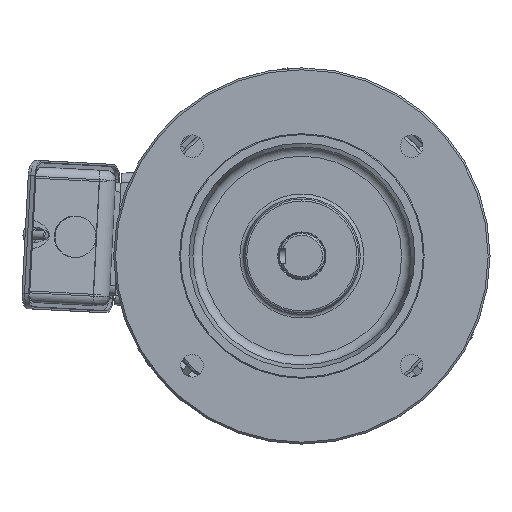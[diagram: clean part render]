
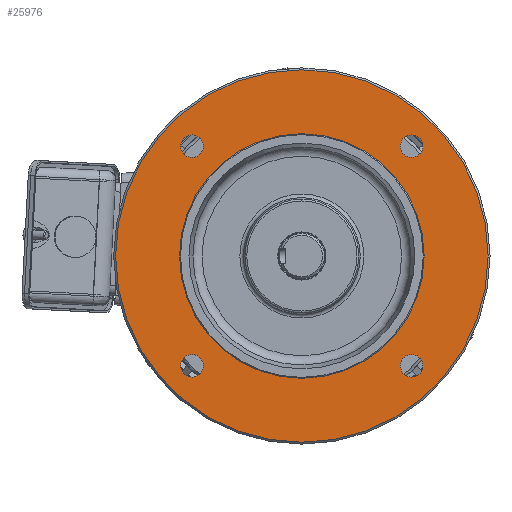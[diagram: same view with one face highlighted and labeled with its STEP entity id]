
A CAD part, front view. The second image highlights one B-rep face of the part: STEP entity #25976.
In plain terms, the highlighted planar face has unit normal (0, -1, 0).
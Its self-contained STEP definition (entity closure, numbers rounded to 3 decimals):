
#2106=CIRCLE('',#27814,65.);
#2107=CIRCLE('',#27816,99.);
#2108=CIRCLE('',#27817,6.);
#2109=CIRCLE('',#27818,6.);
#2110=CIRCLE('',#27819,6.);
#2111=CIRCLE('',#27820,6.);
#4615=ORIENTED_EDGE('',*,*,#10817,.T.);
#4616=ORIENTED_EDGE('',*,*,#10818,.F.);
#4617=ORIENTED_EDGE('',*,*,#10819,.F.);
#4618=ORIENTED_EDGE('',*,*,#10820,.F.);
#4619=ORIENTED_EDGE('',*,*,#10821,.F.);
#4620=ORIENTED_EDGE('',*,*,#10816,.F.);
#10816=EDGE_CURVE('',#14044,#14044,#2106,.T.);
#10817=EDGE_CURVE('',#14045,#14045,#2107,.T.);
#10818=EDGE_CURVE('',#14046,#14046,#2108,.T.);
#10819=EDGE_CURVE('',#14047,#14047,#2109,.T.);
#10820=EDGE_CURVE('',#14048,#14048,#2110,.T.);
#10821=EDGE_CURVE('',#14049,#14049,#2111,.T.);
#14044=VERTEX_POINT('',#40491);
#14045=VERTEX_POINT('',#40494);
#14046=VERTEX_POINT('',#40496);
#14047=VERTEX_POINT('',#40498);
#14048=VERTEX_POINT('',#40500);
#14049=VERTEX_POINT('',#40502);
#18740=EDGE_LOOP('',(#4615));
#18741=EDGE_LOOP('',(#4616));
#18742=EDGE_LOOP('',(#4617));
#18743=EDGE_LOOP('',(#4618));
#18744=EDGE_LOOP('',(#4619));
#18745=EDGE_LOOP('',(#4620));
#20562=FACE_BOUND('',#18740,.T.);
#20563=FACE_BOUND('',#18741,.T.);
#20564=FACE_BOUND('',#18742,.T.);
#20565=FACE_BOUND('',#18743,.T.);
#20566=FACE_BOUND('',#18744,.T.);
#20567=FACE_BOUND('',#18745,.T.);
#22135=PLANE('',#27815);
#25976=ADVANCED_FACE('',(#20562,#20563,#20564,#20565,#20566,#20567),#22135,
 .T.);
#27814=AXIS2_PLACEMENT_3D('',#40490,#31554,#31555);
#27815=AXIS2_PLACEMENT_3D('',#40492,#31556,#31557);
#27816=AXIS2_PLACEMENT_3D('',#40493,#31558,#31559);
#27817=AXIS2_PLACEMENT_3D('',#40495,#31560,#31561);
#27818=AXIS2_PLACEMENT_3D('',#40497,#31562,#31563);
#27819=AXIS2_PLACEMENT_3D('',#40499,#31564,#31565);
#27820=AXIS2_PLACEMENT_3D('',#40501,#31566,#31567);
#31554=DIRECTION('',(0.,-1.,0.));
#31555=DIRECTION('',(1.,0.,0.));
#31556=DIRECTION('',(0.,-1.,0.));
#31557=DIRECTION('',(1.,0.,0.));
#31558=DIRECTION('',(0.,-1.,0.));
#31559=DIRECTION('',(1.,0.,0.));
#31560=DIRECTION('',(0.,-1.,0.));
#31561=DIRECTION('',(0.,0.,1.));
#31562=DIRECTION('',(0.,-1.,0.));
#31563=DIRECTION('',(-1.,0.,0.));
#31564=DIRECTION('',(0.,-1.,0.));
#31565=DIRECTION('',(0.,0.,-1.));
#31566=DIRECTION('',(0.,-1.,0.));
#31567=DIRECTION('',(1.,0.,0.));
#40490=CARTESIAN_POINT('',(0.,3.5,0.));
#40491=CARTESIAN_POINT('',(65.,3.5,0.));
#40492=CARTESIAN_POINT('',(0.,3.5,65.));
#40493=CARTESIAN_POINT('',(0.,3.5,0.));
#40494=CARTESIAN_POINT('',(99.,3.5,0.));
#40495=CARTESIAN_POINT('',(-58.336,3.5,-58.336));
#40496=CARTESIAN_POINT('',(-58.336,3.5,-52.336));
#40497=CARTESIAN_POINT('',(58.336,3.5,-58.336));
#40498=CARTESIAN_POINT('',(52.336,3.5,-58.336));
#40499=CARTESIAN_POINT('',(58.336,3.5,58.336));
#40500=CARTESIAN_POINT('',(58.336,3.5,52.336));
#40501=CARTESIAN_POINT('',(-58.336,3.5,58.336));
#40502=CARTESIAN_POINT('',(-52.336,3.5,58.336));
